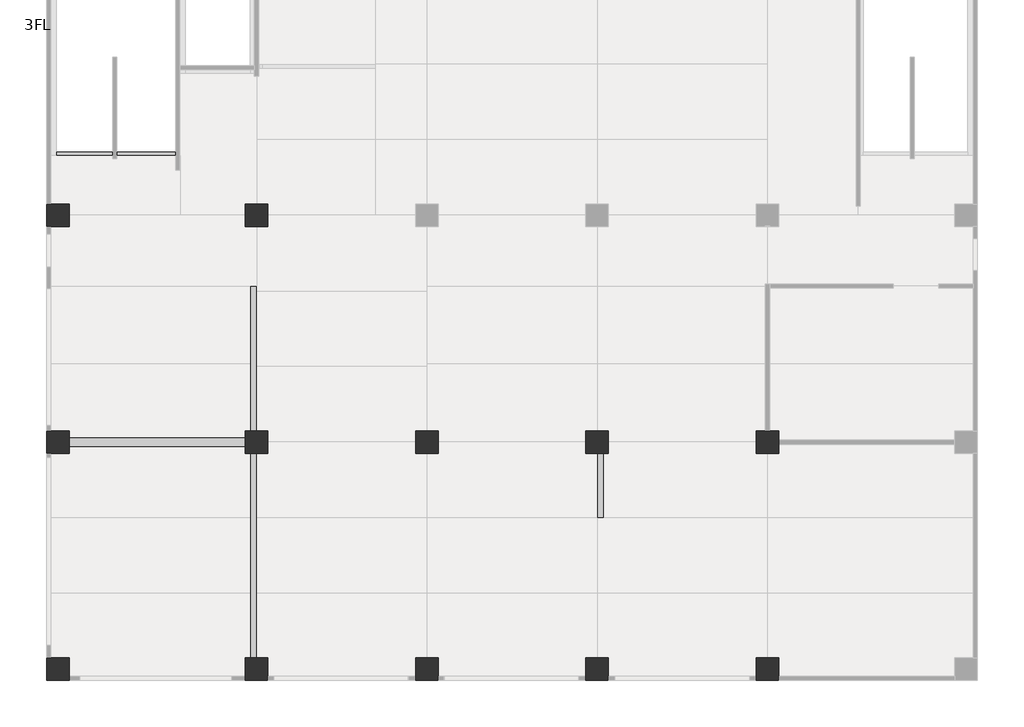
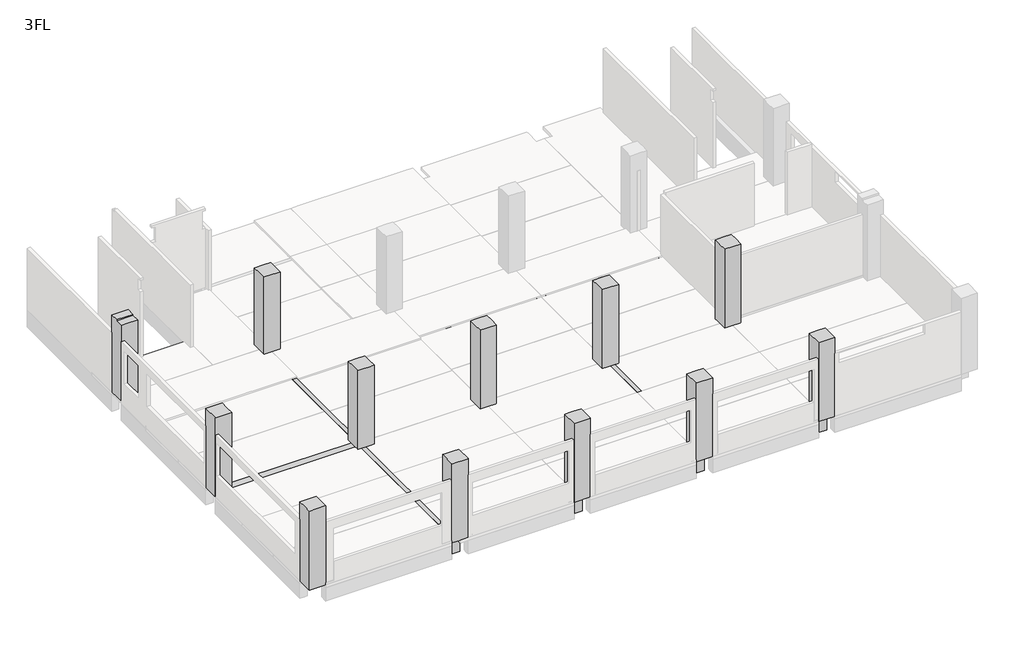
# One storey, part 3 of 4: 35 beams, 12 columns.
"""IFC4 building model written with IfcOpenShell, lengths in millimetres."""

from ifc_helpers import new_model, si_unit, frame, origin, place, context, project, spatial, polyline, outline, extrude, faceted_brep, element, save

model = new_model("IFC4")

# Units and contexts
model_context = context("Model", 3, world=origin())
ifc_project = project(units=[si_unit("LENGTHUNIT", "METRE", prefix="MILLI")], contexts=[model_context])

# Site, building, storey
site = spatial("IfcSite", under=ifc_project)
building = spatial("IfcBuilding", under=site)
storey = spatial("IfcBuildingStorey", under=building, Name="3FL", Elevation=8200.0)

# Beams
placement = place(None, origin())
element("IfcBeam", 1, ObjectType="RC_B : 3G12", at=placement, inside=storey, context=model_context, shape_type="Brep", body=[
    faceted_brep([(6775.0, 7600.0, 8100.0), (6775.0, 7600.0, 7950.0), (6775.0, 7600.0, 7200.0), (6775.0, 0.0, 7200.0), (6775.0, 0.0, 8100.0), (6775.0, 400.0, 8100.0), (6775.0, 2664.0, 8100.0), (6775.0, 5328.0, 8100.0), (7225.0, 7600.0, 7200.0), (7225.0, 0.0, 7200.0), (7225.0, 7600.0, 7950.0), (7225.0, 5505.0, 7950.0), (7225.0, 5155.0, 7950.0), (7225.0, 2835.0, 7950.0), (7225.0, 2485.0, 7950.0), (7225.0, 0.0, 7950.0), (7000.0, 0.0, 8100.0), (7000.0, 2667.0, 8100.0), (7000.0, 5333.0, 8100.0), (7000.0, 7600.0, 8100.0), (7000.0, 7600.0, 7950.0), (7000.0, 0.0, 7950.0), (7000.0, 5333.0, 7950.0), (7000.0, 2667.0, 7950.0)], [[[0, 1, 2, 3, 4, 5, 6, 7]], [[2, 8, 9, 3]], [[9, 8, 10, 11, 12, 13, 14, 15]], [[0, 7, 6, 5, 4, 16, 17, 18, 19]], [[8, 2, 1, 0, 19, 20, 10]], [[4, 3, 9, 15, 21, 16]], [[10, 20, 22, 23, 21, 15, 14, 13, 12, 11]], [[21, 23, 22, 20, 19, 18, 17, 16]]]),
])
element("IfcBeam", 2, ObjectType="RC_B : 3G12", at=placement, inside=storey, context=model_context, shape_type="Brep", body=[
    faceted_brep([(6775.0, 15600.0, 7200.0), (6775.0, 8000.0, 7200.0), (6775.0, 8000.0, 7250.0), (6775.0, 8175.0, 7250.0), (6775.0, 8175.0, 8100.0), (6775.0, 8400.0, 8100.0), (6775.0, 10748.0, 8100.0), (6775.0, 13496.0, 8100.0), (6775.0, 13496.0, 8040.0), (6775.0, 13675.0, 8040.0), (6775.0, 15600.0, 8040.0), (7225.0, 15600.0, 7200.0), (7225.0, 8000.0, 7200.0), (7225.0, 15600.0, 8040.0), (7225.0, 13328.0, 8040.0), (7225.0, 13328.0, 7950.0), (7225.0, 13325.0, 7950.0), (7225.0, 10925.0, 7950.0), (7225.0, 10575.0, 7950.0), (7225.0, 8000.0, 7950.0), (7000.0, 8175.0, 8100.0), (7000.0, 10664.0, 8100.0), (7000.0, 13328.0, 8100.0), (7000.0, 13496.0, 8100.0), (7000.0, 15600.0, 8040.0), (7000.0, 8000.0, 7950.0), (7000.0, 8000.0, 7250.0), (7000.0, 8175.0, 7250.0), (7000.0, 8175.0, 7950.0), (7000.0, 13496.0, 8040.0), (7000.0, 13328.0, 8040.0), (7000.0, 10664.0, 7950.0), (7000.0, 13328.0, 7950.0)], [[[0, 1, 2, 3, 4, 5, 6, 7, 8, 9, 10]], [[0, 11, 12, 1]], [[12, 11, 13, 14, 15, 16, 17, 18, 19]], [[4, 20, 21, 22, 23, 7, 6, 5]], [[11, 0, 10, 24, 13]], [[1, 12, 19, 25, 26, 2]], [[3, 27, 28, 20, 4]], [[27, 3, 2, 26]], [[27, 26, 25, 28]], [[8, 29, 30, 14, 13, 24, 10, 9]], [[29, 8, 7, 23]], [[30, 29, 23, 22, 21, 20, 28, 31, 32]], [[32, 31, 28, 25, 19, 18, 17, 16, 15]], [[30, 32, 15, 14]]]),
])
element("IfcBeam", 3, ObjectType="RC_B : 3G12", at=placement, inside=storey, context=model_context, shape_type="Brep", body=[
    faceted_brep([(12775.0, 7600.0, 7200.0), (12775.0, 0.0, 7200.0), (12775.0, 0.0, 7950.0), (12775.0, 2485.0, 7950.0), (12775.0, 2835.0, 7950.0), (12775.0, 5155.0, 7950.0), (12775.0, 5505.0, 7950.0), (12775.0, 7600.0, 7950.0), (13225.0, 7600.0, 7200.0), (13225.0, 0.0, 7200.0), (13225.0, 7600.0, 7950.0), (13225.0, 5505.0, 7950.0), (13225.0, 5155.0, 7950.0), (13225.0, 2835.0, 7950.0), (13225.0, 2485.0, 7950.0), (13225.0, 0.0, 7950.0), (13000.0, 7600.0, 7950.0)], [[[0, 1, 2, 3, 4, 5, 6, 7]], [[0, 8, 9, 1]], [[9, 8, 10, 11, 12, 13, 14, 15]], [[8, 0, 7, 16, 10]], [[1, 9, 15, 2]], [[2, 15, 14, 13, 12, 11, 10, 16, 7, 6, 5, 4, 3]]]),
])
element("IfcBeam", 4, ObjectType="RC_B : 3G12", at=placement, inside=storey, context=model_context, shape_type="Brep", body=[
    faceted_brep([(12775.0, 15600.0, 7200.0), (12775.0, 8000.0, 7200.0), (12775.0, 8000.0, 7250.0), (12775.0, 8175.0, 7250.0), (12775.0, 8175.0, 7950.0), (12775.0, 10575.0, 7950.0), (12775.0, 10925.0, 7950.0), (12775.0, 13325.0, 7950.0), (12775.0, 13328.0, 7950.0), (12775.0, 13328.0, 8040.0), (12775.0, 15600.0, 8040.0), (13225.0, 15600.0, 7200.0), (13225.0, 8000.0, 7200.0), (13225.0, 15600.0, 8040.0), (13225.0, 13496.0, 8040.0), (13225.0, 13496.0, 7950.0), (13225.0, 13325.0, 7950.0), (13225.0, 10925.0, 7950.0), (13225.0, 10575.0, 7950.0), (13225.0, 8175.0, 7950.0), (13225.0, 8000.0, 7950.0), (13000.0, 15600.0, 8040.0), (13000.0, 8000.0, 7950.0), (13000.0, 8000.0, 7250.0), (13000.0, 8175.0, 7250.0), (13000.0, 8175.0, 7950.0), (13000.0, 13328.0, 8040.0), (13000.0, 13496.0, 8040.0), (13000.0, 13496.0, 7950.0), (13000.0, 13328.0, 7950.0)], [[[0, 1, 2, 3, 4, 5, 6, 7, 8, 9, 10]], [[0, 11, 12, 1]], [[12, 11, 13, 14, 15, 16, 17, 18, 19, 20]], [[11, 0, 10, 21, 13]], [[1, 12, 20, 22, 23, 2]], [[3, 24, 25, 4]], [[24, 3, 2, 23]], [[24, 23, 22, 25]], [[10, 9, 26, 27, 14, 13, 21]], [[4, 25, 22, 20, 19, 18, 17, 16, 15, 28, 29, 8, 7, 6, 5]], [[8, 29, 26, 9]], [[28, 27, 26, 29]], [[27, 28, 15, 14]]]),
])
element("IfcBeam", 5, ObjectType="RC_B : 3G12", at=placement, inside=storey, context=model_context, shape_type="Brep", body=[
    faceted_brep([(18775.0, 7600.0, 7200.0), (18775.0, 0.0, 7200.0), (18775.0, 0.0, 7950.0), (18775.0, 2485.0, 7950.0), (18775.0, 2835.0, 7950.0), (18775.0, 5155.0, 7950.0), (18775.0, 5505.0, 7950.0), (18775.0, 7600.0, 7950.0), (19225.0, 7600.0, 7200.0), (19225.0, 0.0, 7200.0), (19225.0, 7600.0, 8100.0), (19225.0, 5328.0, 8100.0), (19225.0, 5328.0, 7950.0), (19225.0, 5155.0, 7950.0), (19225.0, 2835.0, 7950.0), (19225.0, 2485.0, 7950.0), (19225.0, 0.0, 7950.0), (19000.0, 7600.0, 8100.0), (19000.0, 5328.0, 8100.0), (19000.0, 7600.0, 7950.0), (19000.0, 5328.0, 7950.0)], [[[0, 1, 2, 3, 4, 5, 6, 7]], [[0, 8, 9, 1]], [[8, 10, 11, 12, 13, 14, 15, 16, 9]], [[10, 17, 18, 11]], [[8, 0, 7, 19, 17, 10]], [[1, 9, 16, 2]], [[19, 7, 6, 5, 4, 3, 2, 16, 15, 14, 13, 12, 20]], [[17, 19, 20, 18]], [[20, 12, 11, 18]]]),
])
element("IfcBeam", 6, ObjectType="RC_B : 3G12", at=placement, inside=storey, context=model_context, shape_type="Brep", body=[
    faceted_brep([(18775.0, 15600.0, 8100.0), (18775.0, 15600.0, 8040.0), (18775.0, 15600.0, 7200.0), (18775.0, 8000.0, 7200.0), (18775.0, 8000.0, 7250.0), (18775.0, 8175.0, 7250.0), (18775.0, 8175.0, 7950.0), (18775.0, 10575.0, 7950.0), (18775.0, 10925.0, 7950.0), (18775.0, 13325.0, 7950.0), (18775.0, 13496.0, 7950.0), (18775.0, 13496.0, 8100.0), (18775.0, 13675.0, 8100.0), (19225.0, 15600.0, 7200.0), (19225.0, 8000.0, 7200.0), (19225.0, 15600.0, 8040.0), (19225.0, 13496.0, 8040.0), (19225.0, 13496.0, 8100.0), (19225.0, 10748.0, 8100.0), (19225.0, 10748.0, 7950.0), (19225.0, 10575.0, 7950.0), (19225.0, 8175.0, 7950.0), (19225.0, 8000.0, 7950.0), (19000.0, 13496.0, 8100.0), (19000.0, 15600.0, 8100.0), (19000.0, 15600.0, 8040.0), (19000.0, 8000.0, 7950.0), (19000.0, 8000.0, 7250.0), (19000.0, 8175.0, 7250.0), (19000.0, 8175.0, 7950.0), (19000.0, 10748.0, 7950.0), (19000.0, 13496.0, 7950.0), (19000.0, 13496.0, 8040.0), (19000.0, 10748.0, 8100.0), (19000.0, 13675.0, 8040.0), (19000.0, 13496.0, 8040.0)], [[[0, 1, 2, 3, 4, 5, 6, 7, 8, 9, 10, 11, 12]], [[2, 13, 14, 3]], [[14, 13, 15, 16, 17, 18, 19, 20, 21, 22]], [[11, 23, 24, 0, 12]], [[13, 2, 1, 0, 24, 25, 15]], [[3, 14, 22, 26, 27, 4]], [[5, 28, 29, 6]], [[28, 5, 4, 27]], [[28, 27, 26, 29]], [[6, 29, 26, 22, 21, 20, 19, 30, 31, 10, 9, 8, 7]], [[10, 31, 32, 23, 11]], [[30, 19, 18, 33]], [[33, 23, 32, 31, 30]], [[25, 34, 35, 16, 15]], [[35, 23, 17, 16]], [[23, 35, 34, 25, 24]], [[23, 33, 18, 17]]]),
])
element("IfcBeam", 7, ObjectType="RC_B : 3G12", at=placement, inside=storey, context=model_context, shape_type="Brep", body=[
    faceted_brep([(24775.0, 7600.0, 7200.0), (24775.0, 0.0, 7200.0), (24775.0, 0.0, 7950.0), (24775.0, 2485.0, 7950.0), (24775.0, 2835.0, 7950.0), (24775.0, 5155.0, 7950.0), (24775.0, 5505.0, 7950.0), (24775.0, 7600.0, 7950.0), (25225.0, 7600.0, 7200.0), (25225.0, 0.0, 7200.0), (25225.0, 7600.0, 7950.0), (25225.0, 5505.0, 7950.0), (25225.0, 5155.0, 7950.0), (25225.0, 2835.0, 7950.0), (25225.0, 2485.0, 7950.0), (25225.0, 0.0, 7950.0)], [[[0, 1, 2, 3, 4, 5, 6, 7]], [[0, 8, 9, 1]], [[9, 8, 10, 11, 12, 13, 14, 15]], [[8, 0, 7, 10]], [[1, 9, 15, 2]], [[7, 6, 5, 4, 3, 2, 15, 14, 13, 12, 11, 10]]]),
])
element("IfcBeam", 8, ObjectType="RC_B : 3G12", at=placement, inside=storey, context=model_context, shape_type="Brep", body=[
    faceted_brep([(24775.0, 15600.0, 8100.0), (24775.0, 15600.0, 8040.0), (24775.0, 15600.0, 7200.0), (24775.0, 8000.0, 7200.0), (24775.0, 8000.0, 7250.0), (24775.0, 8175.0, 7250.0), (24775.0, 8175.0, 7950.0), (24775.0, 10575.0, 7950.0), (24775.0, 10925.0, 7950.0), (24775.0, 13325.0, 7950.0), (24775.0, 13496.0, 7950.0), (24775.0, 13496.0, 8100.0), (24775.0, 13675.0, 8100.0), (25225.0, 15600.0, 7200.0), (25225.0, 8075.0, 7200.0), (24925.0, 8075.0, 7200.0), (24925.0, 8000.0, 7200.0), (25225.0, 15600.0, 8040.0), (25225.0, 13675.0, 8040.0), (25225.0, 13325.0, 8040.0), (25225.0, 10925.0, 8040.0), (25225.0, 10575.0, 8040.0), (25225.0, 8175.0, 8040.0), (25225.0, 8000.0, 8040.0), (25225.0, 8000.0, 7950.0), (25225.0, 8000.0, 7250.0), (25225.0, 8075.0, 7250.0), (25000.0, 15600.0, 8100.0), (25000.0, 15600.0, 8040.0), (25000.0, 8000.0, 8040.0), (25000.0, 8000.0, 7250.0), (25000.0, 8175.0, 7250.0), (25000.0, 8175.0, 7950.0), (24925.0, 8000.0, 7250.0), (24925.0, 8075.0, 7250.0), (25000.0, 8075.0, 7250.0), (25000.0, 8400.0, 8040.0), (25000.0, 10748.0, 8040.0), (25000.0, 13496.0, 8040.0), (25000.0, 13496.0, 7950.0), (25000.0, 10748.0, 7950.0), (25000.0, 8400.0, 7950.0), (25000.0, 13496.0, 8100.0)], [[[0, 1, 2, 3, 4, 5, 6, 7, 8, 9, 10, 11, 12]], [[2, 13, 14, 15, 16, 3]], [[13, 17, 18, 19, 20, 21, 22, 23, 24, 25, 26, 14]], [[13, 2, 1, 0, 27, 28, 17]], [[29, 30, 25, 24, 23]], [[5, 31, 32, 6]], [[31, 5, 4, 33, 34, 35]], [[32, 31, 35, 30, 29, 36, 37, 38, 39, 40, 41]], [[28, 38, 37, 36, 29, 23, 22, 21, 20, 19, 18, 17]], [[38, 28, 27, 42]], [[6, 32, 41, 40, 39, 10, 9, 8, 7]], [[10, 39, 38, 42, 11]], [[26, 35, 34, 15, 14]], [[15, 34, 33, 16]], [[35, 26, 25, 30]], [[4, 3, 16, 33]], [[42, 27, 0, 12, 11]]]),
])
element("IfcBeam", 9, ObjectType="RC_B : 3G2", at=placement, inside=storey, context=model_context, shape_type="Brep", body=[
    faceted_brep([(0.0, 8175.0, 7250.0), (0.0, 8175.0, 8100.0), (400.0, 8175.0, 8100.0), (6600.0, 8175.0, 8100.0), (6600.0, 8175.0, 7950.0), (6600.0, 8175.0, 7250.0), (0.0, 7825.0, 7250.0), (6600.0, 7825.0, 7250.0), (0.0, 7825.0, 8100.0), (6600.0, 7825.0, 7950.0), (6600.0, 7825.0, 8100.0), (400.0, 7825.0, 8100.0)], [[[0, 1, 2, 3, 4, 5]], [[6, 0, 5, 7]], [[8, 6, 7, 9, 10, 11]], [[1, 8, 11, 10, 3, 2]], [[5, 4, 3, 10, 9, 7]], [[1, 0, 6, 8]]]),
])
element("IfcBeam", 10, ObjectType="RC_B : 3G2", at=placement, inside=storey, context=model_context, shape_type="Brep", body=[
    faceted_brep([(12600.0, 8175.0, 7250.0), (7225.0, 8175.0, 7250.0), (7225.0, 8175.0, 7950.0), (12600.0, 8175.0, 7950.0), (12600.0, 7825.0, 7250.0), (7225.0, 7825.0, 7250.0), (12600.0, 7825.0, 7950.0), (7225.0, 7825.0, 7950.0), (12600.0, 8000.0, 7950.0), (7225.0, 8000.0, 7950.0)], [[[0, 1, 2, 3]], [[0, 4, 5, 1]], [[5, 4, 6, 7]], [[4, 0, 3, 8, 6]], [[1, 5, 7, 9, 2]], [[7, 6, 8, 3, 2, 9]]]),
])
element("IfcBeam", 11, ObjectType="RC_B : 3G2", at=placement, inside=storey, context=model_context, shape_type="Brep", body=[
    faceted_brep([(18600.0, 8175.0, 7250.0), (13225.0, 8175.0, 7250.0), (13225.0, 8175.0, 7950.0), (18600.0, 8175.0, 7950.0), (18600.0, 7825.0, 7250.0), (13225.0, 7825.0, 7250.0), (18600.0, 7825.0, 7950.0), (13225.0, 7825.0, 7950.0), (18600.0, 8000.0, 7950.0), (13225.0, 8000.0, 7950.0)], [[[0, 1, 2, 3]], [[0, 4, 5, 1]], [[5, 4, 6, 7]], [[4, 0, 3, 8, 6]], [[1, 5, 7, 9, 2]], [[7, 6, 8, 3, 2, 9]]]),
])
element("IfcBeam", 12, ObjectType="RC_B : 3G2", at=placement, inside=storey, context=model_context, shape_type="Brep", body=[
    faceted_brep([(24600.0, 8175.0, 7250.0), (19225.0, 8175.0, 7250.0), (19225.0, 8175.0, 7950.0), (24600.0, 8175.0, 7950.0), (24600.0, 7825.0, 7250.0), (19225.0, 7825.0, 7250.0), (24600.0, 7825.0, 7950.0), (19225.0, 7825.0, 7950.0), (24600.0, 8000.0, 7950.0), (19225.0, 8000.0, 7950.0)], [[[0, 1, 2, 3]], [[0, 4, 5, 1]], [[5, 4, 6, 7]], [[4, 0, 3, 8, 6]], [[1, 5, 7, 9, 2]], [[7, 6, 8, 3, 2, 9]]]),
])
element("IfcBeam", 13, ObjectType="RC_B : 3G2", at=placement, inside=storey, context=model_context, shape_type="Brep", body=[
    faceted_brep([(31600.0, 8175.0, 7250.0), (25225.0, 8175.0, 7250.0), (25225.0, 8175.0, 8040.0), (31600.0, 8175.0, 8040.0), (31600.0, 7825.0, 7250.0), (25225.0, 7825.0, 7250.0), (25225.0, 8000.0, 7250.0), (25225.0, 8075.0, 7250.0), (31600.0, 7825.0, 7950.0), (25225.0, 7825.0, 7950.0), (31600.0, 8000.0, 8040.0), (31600.0, 8000.0, 7950.0), (25225.0, 8000.0, 7950.0), (25225.0, 8000.0, 8040.0), (25400.0, 8000.0, 7950.0), (25400.0, 8000.0, 8040.0)], [[[0, 1, 2, 3]], [[0, 4, 5, 6, 7, 1]], [[5, 4, 8, 9]], [[4, 0, 3, 10, 11, 8]], [[1, 7, 6, 5, 9, 12, 13, 2]], [[11, 14, 12, 9, 8]], [[12, 14, 11, 10, 15, 13]], [[3, 2, 13, 15, 10]]]),
])
element("IfcBeam", 14, ObjectType="RC_B : 3G2", at=placement, inside=storey, context=model_context, shape_type="Brep", body=[
    faceted_brep([(6600.0, 16175.0, 7250.0), (0.0, 16175.0, 7250.0), (0.0, 16175.0, 8040.0), (6600.0, 16175.0, 8040.0), (6600.0, 15825.0, 7250.0), (0.0, 15825.0, 7250.0), (6600.0, 15825.0, 8040.0), (0.0, 15825.0, 8040.0), (6600.0, 16000.0, 8040.0)], [[[0, 1, 2, 3]], [[0, 4, 5, 1]], [[5, 4, 6, 7]], [[4, 0, 3, 8, 6]], [[1, 5, 7, 2]], [[7, 6, 8, 3, 2]]]),
])
element("IfcBeam", 15, ObjectType="RC_B : B1", at=placement, inside=storey, context=model_context, shape_type="Brep", body=[
    faceted_brep([(6775.0, 2835.0, 7350.0), (-50.0, 2835.0, 7350.0), (-50.0, 2835.0, 7950.0), (6775.0, 2835.0, 7950.0), (6775.0, 2485.0, 7350.0), (-50.0, 2485.0, 7350.0), (6775.0, 2485.0, 7950.0), (-50.0, 2485.0, 7950.0), (6775.0, 2664.0, 7950.0)], [[[0, 1, 2, 3]], [[0, 4, 5, 1]], [[5, 4, 6, 7]], [[4, 0, 3, 8, 6]], [[1, 5, 7, 2]], [[3, 2, 7, 6, 8]]]),
])
element("IfcBeam", 16, ObjectType="RC_B : B1", at=placement, inside=storey, context=model_context, shape_type="Brep", body=[
    faceted_brep([(6775.0, 5505.0, 7350.0), (-50.0, 5505.0, 7350.0), (-50.0, 5505.0, 7950.0), (6775.0, 5505.0, 7950.0), (6775.0, 5155.0, 7350.0), (-50.0, 5155.0, 7350.0), (6775.0, 5155.0, 7950.0), (-50.0, 5155.0, 7950.0), (6775.0, 5328.0, 7950.0)], [[[0, 1, 2, 3]], [[0, 4, 5, 1]], [[5, 4, 6, 7]], [[4, 0, 3, 8, 6]], [[1, 5, 7, 2]], [[3, 2, 7, 6, 8]]]),
])
element("IfcBeam", 17, ObjectType="RC_B : B1", at=placement, inside=storey, context=model_context, shape_type="SweptSolid", body=[
    extrude(outline(polyline([(13675.0, 7350.0), (13325.0, 7350.0), (13325.0, 7950.0), (13496.0, 7950.0), (13496.0, 8040.0), (13675.0, 8040.0), (13675.0, 7350.0)])), frame((-50.0, 0.0, 0.0), z_axis=(1.0, 0.0, 0.0), x_axis=(0.0, 1.0, 0.0)), (0.0, 0.0, 1.0), 6825.0),
])
element("IfcBeam", 18, ObjectType="RC_B : B1", at=placement, inside=storey, context=model_context, shape_type="Brep", body=[
    faceted_brep([(6775.0, 10925.0, 7350.0), (-50.0, 10925.0, 7350.0), (-50.0, 10925.0, 7950.0), (6775.0, 10925.0, 7950.0), (6775.0, 10575.0, 7350.0), (-50.0, 10575.0, 7350.0), (6775.0, 10575.0, 7950.0), (-50.0, 10575.0, 7950.0), (6775.0, 10748.0, 7950.0)], [[[0, 1, 2, 3]], [[0, 4, 5, 1]], [[5, 4, 6, 7]], [[4, 0, 3, 8, 6]], [[1, 5, 7, 2]], [[3, 2, 7, 6, 8]]]),
])
element("IfcBeam", 19, ObjectType="RC_B : B2", at=placement, inside=storey, context=model_context, shape_type="SweptSolid", body=[
    extrude(outline(polyline([(7225.0, 2485.0), (7225.0, 2835.0), (12775.0, 2835.0), (12775.0, 2485.0), (7225.0, 2485.0)])), frame((0.0, 0.0, 7350.0), z_axis=(0.0, 0.0, 1.0), x_axis=(1.0, 0.0, 0.0)), (0.0, 0.0, 1.0), 600.0),
])
element("IfcBeam", 20, ObjectType="RC_B : B2", at=placement, inside=storey, context=model_context, shape_type="SweptSolid", body=[
    extrude(outline(polyline([(7225.0, 5155.0), (7225.0, 5505.0), (12775.0, 5505.0), (12775.0, 5155.0), (7225.0, 5155.0)])), frame((0.0, 0.0, 7350.0), z_axis=(0.0, 0.0, 1.0), x_axis=(1.0, 0.0, 0.0)), (0.0, 0.0, 1.0), 600.0),
])
element("IfcBeam", 21, ObjectType="RC_B : B2", at=placement, inside=storey, context=model_context, shape_type="SweptSolid", body=[
    extrude(outline(polyline([(13225.0, 2485.0), (13225.0, 2835.0), (18775.0, 2835.0), (18775.0, 2485.0), (13225.0, 2485.0)])), frame((0.0, 0.0, 7350.0), z_axis=(0.0, 0.0, 1.0), x_axis=(1.0, 0.0, 0.0)), (0.0, 0.0, 1.0), 600.0),
])
element("IfcBeam", 22, ObjectType="RC_B : B2", at=placement, inside=storey, context=model_context, shape_type="SweptSolid", body=[
    extrude(outline(polyline([(13225.0, 5155.0), (13225.0, 5505.0), (18775.0, 5505.0), (18775.0, 5155.0), (13225.0, 5155.0)])), frame((0.0, 0.0, 7350.0), z_axis=(0.0, 0.0, 1.0), x_axis=(1.0, 0.0, 0.0)), (0.0, 0.0, 1.0), 600.0),
])
element("IfcBeam", 23, ObjectType="RC_B : B2", at=placement, inside=storey, context=model_context, shape_type="SweptSolid", body=[
    extrude(outline(polyline([(19225.0, 2485.0), (19225.0, 2835.0), (24775.0, 2835.0), (24775.0, 2485.0), (19225.0, 2485.0)])), frame((0.0, 0.0, 7350.0), z_axis=(0.0, 0.0, 1.0), x_axis=(1.0, 0.0, 0.0)), (0.0, 0.0, 1.0), 600.0),
])
element("IfcBeam", 24, ObjectType="RC_B : B2", at=placement, inside=storey, context=model_context, shape_type="Brep", body=[
    faceted_brep([(24775.0, 5505.0, 7350.0), (19225.0, 5505.0, 7350.0), (19225.0, 5505.0, 7950.0), (24775.0, 5505.0, 7950.0), (19225.0, 5155.0, 7350.0), (24775.0, 5155.0, 7350.0), (24775.0, 5155.0, 7950.0), (19225.0, 5155.0, 7950.0), (19225.0, 5328.0, 7950.0)], [[[0, 1, 2, 3]], [[4, 1, 0, 5]], [[4, 5, 6, 7]], [[1, 4, 7, 8, 2]], [[5, 0, 3, 6]], [[7, 6, 3, 2, 8]]]),
])
element("IfcBeam", 25, ObjectType="RC_B : B2", at=placement, inside=storey, context=model_context, shape_type="SweptSolid", body=[
    extrude(outline(polyline([(25225.0, 2485.0), (25225.0, 2835.0), (32050.0, 2835.0), (32050.0, 2485.0), (25225.0, 2485.0)])), frame((0.0, 0.0, 7350.0), z_axis=(0.0, 0.0, 1.0), x_axis=(1.0, 0.0, 0.0)), (0.0, 0.0, 1.0), 600.0),
])
element("IfcBeam", 26, ObjectType="RC_B : B2", at=placement, inside=storey, context=model_context, shape_type="SweptSolid", body=[
    extrude(outline(polyline([(25225.0, 5155.0), (25225.0, 5505.0), (32050.0, 5505.0), (32050.0, 5155.0), (25225.0, 5155.0)])), frame((0.0, 0.0, 7350.0), z_axis=(0.0, 0.0, 1.0), x_axis=(1.0, 0.0, 0.0)), (0.0, 0.0, 1.0), 600.0),
])
element("IfcBeam", 27, ObjectType="RC_B : B2", at=placement, inside=storey, context=model_context, shape_type="SweptSolid", body=[
    extrude(outline(polyline([(7225.0, 10575.0), (7225.0, 10925.0), (12775.0, 10925.0), (12775.0, 10575.0), (7225.0, 10575.0)])), frame((0.0, 0.0, 7350.0), z_axis=(0.0, 0.0, 1.0), x_axis=(1.0, 0.0, 0.0)), (0.0, 0.0, 1.0), 600.0),
])
element("IfcBeam", 28, ObjectType="RC_B : B2", at=placement, inside=storey, context=model_context, shape_type="Brep", body=[
    faceted_brep([(7225.0, 13675.0, 7350.0), (7225.0, 13675.0, 8100.0), (12775.0, 13675.0, 8100.0), (12775.0, 13675.0, 7350.0), (7225.0, 13325.0, 7350.0), (12775.0, 13325.0, 7350.0), (12775.0, 13325.0, 7950.0), (7225.0, 13325.0, 7950.0), (7225.0, 13328.0, 8100.0), (12775.0, 13328.0, 8100.0), (7225.0, 13328.0, 7950.0), (7225.0, 13328.0, 8040.0), (12775.0, 13328.0, 8040.0), (12775.0, 13328.0, 7950.0)], [[[0, 1, 2, 3]], [[4, 0, 3, 5]], [[4, 5, 6, 7]], [[2, 1, 8, 9]], [[1, 0, 4, 7, 10, 11, 8]], [[3, 2, 9, 12, 13, 6, 5]], [[13, 10, 7, 6]], [[10, 13, 12, 9, 8, 11]]]),
])
element("IfcBeam", 29, ObjectType="RC_B : B2", at=placement, inside=storey, context=model_context, shape_type="Brep", body=[
    faceted_brep([(13225.0, 13675.0, 7350.0), (13225.0, 13675.0, 8100.0), (18775.0, 13675.0, 8100.0), (18775.0, 13675.0, 8040.0), (18775.0, 13675.0, 7350.0), (13225.0, 13325.0, 7350.0), (18775.0, 13325.0, 7350.0), (13225.0, 13325.0, 7950.0), (18775.0, 13325.0, 7950.0), (13225.0, 13496.0, 8100.0), (18775.0, 13496.0, 8100.0), (13225.0, 13496.0, 7950.0), (13225.0, 13496.0, 8040.0), (18775.0, 13496.0, 7950.0)], [[[0, 1, 2, 3, 4]], [[5, 0, 4, 6]], [[7, 5, 6, 8]], [[1, 9, 10, 2]], [[1, 0, 5, 7, 11, 12, 9]], [[11, 7, 8, 13]], [[9, 12, 11, 13, 10]], [[4, 3, 2, 10, 13, 8, 6]]]),
])
element("IfcBeam", 30, ObjectType="RC_B : B2", at=placement, inside=storey, context=model_context, shape_type="Brep", body=[
    faceted_brep([(24775.0, 13675.0, 8100.0), (24775.0, 13675.0, 8040.0), (24775.0, 13675.0, 7350.0), (19225.0, 13675.0, 7350.0), (19225.0, 13675.0, 8100.0), (24775.0, 13325.0, 7350.0), (19225.0, 13325.0, 7350.0), (24775.0, 13325.0, 7950.0), (19225.0, 13325.0, 7950.0), (24775.0, 13496.0, 8100.0), (19225.0, 13496.0, 8100.0), (24775.0, 13496.0, 7950.0), (19225.0, 13496.0, 7950.0)], [[[0, 1, 2, 3, 4]], [[2, 5, 6, 3]], [[5, 7, 8, 6]], [[9, 0, 4, 10]], [[2, 1, 0, 9, 11, 7, 5]], [[7, 11, 12, 8]], [[11, 9, 10, 12]], [[4, 3, 6, 8, 12, 10]]]),
])
element("IfcBeam", 31, ObjectType="RC_B : B2", at=placement, inside=storey, context=model_context, shape_type="Brep", body=[
    faceted_brep([(32050.0, 13675.0, 7350.0), (25225.0, 13675.0, 7350.0), (25225.0, 13675.0, 8040.0), (32050.0, 13675.0, 8040.0), (25225.0, 13325.0, 7350.0), (32050.0, 13575.0, 7350.0), (32050.0, 13425.0, 7350.0), (32050.0, 13325.0, 7350.0), (32050.0, 13325.0, 8040.0), (25225.0, 13325.0, 8040.0)], [[[0, 1, 2, 3]], [[4, 1, 0, 5, 6, 7]], [[4, 7, 8, 9]], [[1, 4, 9, 2]], [[7, 6, 5, 0, 3, 8]], [[3, 2, 9, 8]]]),
])
element("IfcBeam", 32, ObjectType="RC_B : B2", at=placement, inside=storey, context=model_context, shape_type="SweptSolid", body=[
    extrude(outline(polyline([(13225.0, 10575.0), (13225.0, 10925.0), (18775.0, 10925.0), (18775.0, 10575.0), (13225.0, 10575.0)])), frame((0.0, 0.0, 7350.0), z_axis=(0.0, 0.0, 1.0), x_axis=(1.0, 0.0, 0.0)), (0.0, 0.0, 1.0), 600.0),
])
element("IfcBeam", 33, ObjectType="RC_B : B2", at=placement, inside=storey, context=model_context, shape_type="Brep", body=[
    faceted_brep([(24775.0, 10925.0, 7350.0), (19225.0, 10925.0, 7350.0), (19225.0, 10925.0, 7950.0), (24775.0, 10925.0, 7950.0), (19225.0, 10575.0, 7350.0), (24775.0, 10575.0, 7350.0), (24775.0, 10575.0, 7950.0), (19225.0, 10575.0, 7950.0), (19225.0, 10748.0, 7950.0)], [[[0, 1, 2, 3]], [[4, 1, 0, 5]], [[4, 5, 6, 7]], [[1, 4, 7, 8, 2]], [[5, 0, 3, 6]], [[3, 2, 8, 7, 6]]]),
])
element("IfcBeam", 34, ObjectType="RC_B : B2", at=placement, inside=storey, context=model_context, shape_type="SweptSolid", body=[
    extrude(outline(polyline([(25225.0, 10575.0), (25225.0, 10925.0), (32050.0, 10925.0), (32050.0, 10575.0), (25225.0, 10575.0)])), frame((0.0, 0.0, 7350.0), z_axis=(0.0, 0.0, 1.0), x_axis=(1.0, 0.0, 0.0)), (0.0, 0.0, 1.0), 690.0),
])
element("IfcBeam", 35, ObjectType="RC_B : B3", at=placement, inside=storey, context=model_context, shape_type="Brep", body=[
    faceted_brep([(4144.0, 18225.0, 8100.0), (4144.0, 18225.0, 7500.0), (2075.0, 18225.0, 7500.0), (1925.0, 18225.0, 7500.0), (-50.0, 18225.0, 7500.0), (-50.0, 18225.0, 8100.0), (1925.0, 18225.0, 8100.0), (2075.0, 18225.0, 8100.0), (4144.0, 17975.0, 7500.0), (-50.0, 17975.0, 7500.0), (4144.0, 17975.0, 8040.0), (-50.0, 17975.0, 8040.0), (-50.0, 18100.0, 8100.0), (4144.0, 18100.0, 8100.0), (4144.0, 18100.0, 8040.0), (-50.0, 18100.0, 8040.0)], [[[0, 1, 2, 3, 4, 5, 6, 7]], [[1, 8, 9, 4, 3, 2]], [[9, 8, 10, 11]], [[0, 7, 6, 5, 12, 13]], [[1, 0, 13, 14, 10, 8]], [[5, 4, 9, 11, 15, 12]], [[14, 15, 11, 10]], [[15, 14, 13, 12]]]),
])

# Columns
element("IfcColumn", 36, ObjectType="RC_C_B : 3C1", at=placement, inside=storey, context=model_context, shape_type="Brep", body=[
    faceted_brep([(7400.0, 400.0, 8100.0), (7400.0, -250.0, 8100.0), (7400.0, -400.0, 8100.0), (7000.0, -400.0, 8100.0), (6600.0, -400.0, 8100.0), (6600.0, -250.0, 8100.0), (6600.0, 400.0, 8100.0), (7000.0, 400.0, 8100.0), (7400.0, 400.0, 12200.0), (7400.0, -400.0, 12200.0), (7400.0, -400.0, 12050.0), (7400.0, -400.0, 11350.0), (7400.0, 400.0, 12050.0), (7375.0, -400.0, 12200.0), (6625.0, -400.0, 12200.0), (6600.0, -400.0, 12200.0), (6600.0, -400.0, 12050.0), (6600.0, -400.0, 11350.0), (6600.0, -400.0, 8200.0), (6600.0, 400.0, 12200.0), (6600.0, 400.0, 12050.0), (6775.0, 400.0, 12200.0), (7225.0, 400.0, 12200.0)], [[[0, 1, 2, 3, 4, 5, 6, 7]], [[8, 9, 10, 11, 2, 1, 0, 12]], [[9, 13, 14, 15, 16, 17, 18, 4, 3, 2, 11, 10]], [[15, 19, 20, 6, 5, 4, 18, 17, 16]], [[19, 21, 22, 8, 12, 0, 7, 6, 20]], [[8, 22, 21, 19, 15, 14, 13, 9]]]),
])
element("IfcColumn", 37, ObjectType="RC_C_B : 3C1", at=placement, inside=storey, context=model_context, shape_type="Brep", body=[
    faceted_brep([(13400.0, 400.0, 8100.0), (13400.0, -250.0, 8100.0), (13400.0, -400.0, 8100.0), (12600.0, -400.0, 8100.0), (12600.0, 400.0, 8100.0), (13400.0, 400.0, 12200.0), (13400.0, -400.0, 12200.0), (13400.0, -400.0, 12050.0), (13400.0, -400.0, 11350.0), (13400.0, 400.0, 12050.0), (13375.0, -400.0, 12200.0), (12625.0, -400.0, 12200.0), (12600.0, -400.0, 12200.0), (12600.0, -400.0, 12050.0), (12600.0, -400.0, 11350.0), (12600.0, 400.0, 12200.0), (12600.0, 400.0, 12050.0), (12775.0, 400.0, 12200.0), (13000.0, 400.0, 12200.0)], [[[0, 1, 2, 3, 4]], [[5, 6, 7, 8, 2, 1, 0, 9]], [[6, 10, 11, 12, 13, 14, 3, 2, 8, 7]], [[12, 15, 16, 4, 3, 14, 13]], [[15, 17, 18, 5, 9, 0, 4, 16]], [[5, 18, 17, 15, 12, 11, 10, 6]]]),
])
element("IfcColumn", 38, ObjectType="RC_C_B : 3C1", at=placement, inside=storey, context=model_context, shape_type="Brep", body=[
    faceted_brep([(19400.0, 400.0, 8100.0), (19400.0, -250.0, 8100.0), (19400.0, -400.0, 8100.0), (18600.0, -400.0, 8100.0), (18600.0, -250.0, 8100.0), (18600.0, 400.0, 8100.0), (19400.0, 400.0, 12200.0), (19400.0, -400.0, 12200.0), (19400.0, -400.0, 12050.0), (19400.0, -400.0, 11350.0), (19400.0, 400.0, 12050.0), (19375.0, -400.0, 12200.0), (18625.0, -400.0, 12200.0), (18600.0, -400.0, 12200.0), (18600.0, -400.0, 12050.0), (18600.0, -400.0, 11350.0), (18600.0, -400.0, 8200.0), (18600.0, 400.0, 12200.0), (18600.0, 400.0, 12050.0), (19000.0, 400.0, 12200.0)], [[[0, 1, 2, 3, 4, 5]], [[6, 7, 8, 9, 2, 1, 0, 10]], [[7, 11, 12, 13, 14, 15, 16, 3, 2, 9, 8]], [[13, 17, 18, 5, 4, 3, 16, 15, 14]], [[17, 19, 6, 10, 0, 5, 18]], [[6, 19, 17, 13, 12, 11, 7]]]),
])
element("IfcColumn", 39, ObjectType="RC_C_B : 3C1", at=placement, inside=storey, context=model_context, shape_type="Brep", body=[
    faceted_brep([(25400.0, 400.0, 8100.0), (25400.0, -250.0, 8100.0), (25400.0, -400.0, 8100.0), (24600.0, -400.0, 8100.0), (24600.0, -250.0, 8100.0), (24600.0, 400.0, 8100.0), (25400.0, 400.0, 12200.0), (25400.0, -400.0, 12200.0), (25400.0, -400.0, 12050.0), (25400.0, -400.0, 11350.0), (25400.0, 400.0, 12050.0), (25375.0, -400.0, 12200.0), (24625.0, -400.0, 12200.0), (24600.0, -400.0, 12200.0), (24600.0, -400.0, 12050.0), (24600.0, -400.0, 11350.0), (24600.0, -400.0, 8200.0), (24600.0, 400.0, 12200.0), (24600.0, 400.0, 12050.0), (25000.0, 400.0, 12200.0)], [[[0, 1, 2, 3, 4, 5]], [[6, 7, 8, 9, 2, 1, 0, 10]], [[7, 11, 12, 13, 14, 15, 16, 3, 2, 9, 8]], [[13, 17, 18, 5, 4, 3, 16, 15, 14]], [[17, 19, 6, 10, 0, 5, 18]], [[6, 19, 17, 13, 12, 11, 7]]]),
])
element("IfcColumn", 40, ObjectType="RC_C_B : 3C1", at=placement, inside=storey, context=model_context, shape_type="Brep", body=[
    faceted_brep([(400.0, 8400.0, 8100.0), (400.0, 7600.0, 8100.0), (-250.0, 7600.0, 8100.0), (-400.0, 7600.0, 8100.0), (-400.0, 8400.0, 8100.0), (-250.0, 8400.0, 8100.0), (400.0, 8400.0, 12200.0), (400.0, 8000.0, 12200.0), (400.0, 7600.0, 12200.0), (400.0, 7600.0, 12050.0), (400.0, 8400.0, 12050.0), (-400.0, 7600.0, 12200.0), (-400.0, 7600.0, 12050.0), (-400.0, 7600.0, 11300.0), (-400.0, 7625.0, 12200.0), (-400.0, 8375.0, 12200.0), (-400.0, 8400.0, 12200.0), (-400.0, 8400.0, 12050.0), (-400.0, 8400.0, 11300.0)], [[[0, 1, 2, 3, 4, 5]], [[6, 7, 8, 9, 1, 0, 10]], [[8, 11, 12, 13, 3, 2, 1, 9]], [[11, 14, 15, 16, 17, 18, 4, 3, 13, 12]], [[16, 6, 10, 0, 5, 4, 18, 17]], [[6, 16, 15, 14, 11, 8, 7]]]),
])
element("IfcColumn", 41, ObjectType="RC_C_B : 3C1", at=placement, inside=storey, context=model_context, shape_type="Brep", body=[
    faceted_brep([(7400.0, 8400.0, 8100.0), (7400.0, 7600.0, 8100.0), (7000.0, 7600.0, 8100.0), (6600.0, 7600.0, 8100.0), (6600.0, 8400.0, 8100.0), (7000.0, 8400.0, 8100.0), (7400.0, 8400.0, 12200.0), (7400.0, 8000.0, 12200.0), (7400.0, 7600.0, 12200.0), (7400.0, 7600.0, 12050.0), (7400.0, 8400.0, 12050.0), (7225.0, 7600.0, 12200.0), (6775.0, 7600.0, 12200.0), (6600.0, 7600.0, 12200.0), (6600.0, 7600.0, 12050.0), (6600.0, 8000.0, 12200.0), (6600.0, 8400.0, 12200.0), (6600.0, 8400.0, 12050.0), (7000.0, 8400.0, 12200.0)], [[[0, 1, 2, 3, 4, 5]], [[6, 7, 8, 9, 1, 0, 10]], [[8, 11, 12, 13, 14, 3, 2, 1, 9]], [[13, 15, 16, 17, 4, 3, 14]], [[16, 18, 6, 10, 0, 5, 4, 17]], [[6, 18, 16, 15, 13, 12, 11, 8, 7]]]),
])
element("IfcColumn", 42, ObjectType="RC_C_B : 3C1", at=placement, inside=storey, context=model_context, shape_type="Brep", body=[
    faceted_brep([(13400.0, 8400.0, 8100.0), (13400.0, 7600.0, 8100.0), (12600.0, 7600.0, 8100.0), (12600.0, 8400.0, 8100.0), (13400.0, 8400.0, 12200.0), (13400.0, 8000.0, 12200.0), (13400.0, 7600.0, 12200.0), (13400.0, 7600.0, 12050.0), (13400.0, 8400.0, 12050.0), (13000.0, 7600.0, 12200.0), (12775.0, 7600.0, 12200.0), (12600.0, 7600.0, 12200.0), (12600.0, 7600.0, 12050.0), (12600.0, 8000.0, 12200.0), (12600.0, 8400.0, 12200.0), (12600.0, 8400.0, 12050.0), (12775.0, 8400.0, 12200.0), (13000.0, 8400.0, 12200.0)], [[[0, 1, 2, 3]], [[4, 5, 6, 7, 1, 0, 8]], [[6, 9, 10, 11, 12, 2, 1, 7]], [[11, 13, 14, 15, 3, 2, 12]], [[14, 16, 17, 4, 8, 0, 3, 15]], [[4, 17, 16, 14, 13, 11, 10, 9, 6, 5]]]),
])
element("IfcColumn", 43, ObjectType="RC_C_B : 3C1", at=placement, inside=storey, context=model_context, shape_type="Brep", body=[
    faceted_brep([(19400.0, 8400.0, 8100.0), (19400.0, 7600.0, 8100.0), (18600.0, 7600.0, 8100.0), (18600.0, 8400.0, 8100.0), (19400.0, 8400.0, 12200.0), (19400.0, 8000.0, 12200.0), (19400.0, 7600.0, 12200.0), (19400.0, 7600.0, 12050.0), (19400.0, 8400.0, 12050.0), (19000.0, 7600.0, 12200.0), (18600.0, 7600.0, 12200.0), (18600.0, 7600.0, 12050.0), (18600.0, 8000.0, 12200.0), (18600.0, 8400.0, 12200.0), (18600.0, 8400.0, 12050.0), (19000.0, 8400.0, 12200.0), (19225.0, 8400.0, 12200.0)], [[[0, 1, 2, 3]], [[4, 5, 6, 7, 1, 0, 8]], [[6, 9, 10, 11, 2, 1, 7]], [[10, 12, 13, 14, 3, 2, 11]], [[13, 15, 16, 4, 8, 0, 3, 14]], [[4, 16, 15, 13, 12, 10, 9, 6, 5]]]),
])
element("IfcColumn", 44, ObjectType="RC_C_B : 3C1", at=placement, inside=storey, context=model_context, shape_type="Brep", body=[
    faceted_brep([(25400.0, 8400.0, 8100.0), (25400.0, 8075.0, 8100.0), (25400.0, 7925.0, 8100.0), (25400.0, 7600.0, 8100.0), (24600.0, 7600.0, 8100.0), (24600.0, 8400.0, 8100.0), (25400.0, 8400.0, 12200.0), (25400.0, 8000.0, 12200.0), (25400.0, 7600.0, 12200.0), (25400.0, 7600.0, 12050.0), (25400.0, 8400.0, 8190.0), (25400.0, 8400.0, 12140.0), (25000.0, 7600.0, 12200.0), (24600.0, 7600.0, 12200.0), (24600.0, 7600.0, 12050.0), (24600.0, 8000.0, 12200.0), (24600.0, 8400.0, 12200.0), (24600.0, 8400.0, 12050.0), (25000.0, 8400.0, 12200.0)], [[[0, 1, 2, 3, 4, 5]], [[6, 7, 8, 9, 3, 2, 1, 0, 10, 11]], [[8, 12, 13, 14, 4, 3, 9]], [[13, 15, 16, 17, 5, 4, 14]], [[16, 18, 6, 11, 10, 0, 5, 17]], [[6, 18, 16, 15, 13, 12, 8, 7]]]),
])
element("IfcColumn", 45, ObjectType="RC_C_B : 3C1", at=placement, inside=storey, context=model_context, shape_type="Brep", body=[
    faceted_brep([(400.0, 16400.0, 12200.0), (400.0, 16000.0, 12200.0), (400.0, 16000.0, 12140.0), (400.0, 15600.0, 12140.0), (400.0, 15600.0, 8190.0), (400.0, 16400.0, 8190.0), (400.0, 16400.0, 12140.0), (-50.0, 15600.0, 12140.0), (-400.0, 15600.0, 12140.0), (-400.0, 15600.0, 11300.0), (-400.0, 15600.0, 8190.0), (-400.0, 16000.0, 12200.0), (-400.0, 16400.0, 12200.0), (-400.0, 16400.0, 12140.0), (-400.0, 16400.0, 11300.0), (-400.0, 16400.0, 8190.0), (-400.0, 16000.0, 8190.0), (-400.0, 16000.0, 12140.0), (-250.0, 16400.0, 8190.0)], [[[0, 1, 2, 3, 4, 5, 6]], [[3, 7, 8, 9, 10, 4]], [[11, 12, 13, 14, 15, 16, 10, 9, 8, 17]], [[12, 0, 6, 5, 18, 15, 14, 13]], [[0, 12, 11, 1]], [[2, 17, 8, 7, 3]], [[17, 2, 1, 11]], [[4, 10, 16, 15, 18, 5]]]),
])
element("IfcColumn", 46, ObjectType="RC_C_B : 3C1", at=placement, inside=storey, context=model_context, shape_type="Brep", body=[
    faceted_brep([(7400.0, 16400.0, 8100.0), (7400.0, 15600.0, 8100.0), (6600.0, 15600.0, 8100.0), (6600.0, 16400.0, 8100.0), (7400.0, 16400.0, 12200.0), (7400.0, 16000.0, 12200.0), (7400.0, 15600.0, 12200.0), (7400.0, 15600.0, 12140.0), (7400.0, 15600.0, 8190.0), (7400.0, 16400.0, 12140.0), (7225.0, 15600.0, 12200.0), (7000.0, 15600.0, 12200.0), (6600.0, 15600.0, 12200.0), (6600.0, 15600.0, 12140.0), (6600.0, 15600.0, 8190.0), (6600.0, 16000.0, 12200.0), (6600.0, 16400.0, 12200.0), (6600.0, 16400.0, 12140.0), (6600.0, 16400.0, 8190.0), (7000.0, 16400.0, 12200.0)], [[[0, 1, 2, 3]], [[4, 5, 6, 7, 8, 1, 0, 9]], [[6, 10, 11, 12, 13, 14, 2, 1, 8, 7]], [[12, 15, 16, 17, 18, 3, 2, 14, 13]], [[16, 19, 4, 9, 0, 3, 18, 17]], [[4, 19, 16, 15, 12, 11, 10, 6, 5]]]),
])
element("IfcColumn", 47, ObjectType="RC_C_B : 3C2", at=placement, inside=storey, context=model_context, shape_type="Brep", body=[
    faceted_brep([(400.0, 400.0, 8100.0), (400.0, -250.0, 8100.0), (400.0, -400.0, 8100.0), (-400.0, -400.0, 8100.0), (-400.0, 400.0, 8100.0), (-250.0, 400.0, 8100.0), (400.0, 400.0, 12200.0), (400.0, -400.0, 12200.0), (400.0, -400.0, 12050.0), (400.0, -400.0, 11350.0), (400.0, -400.0, 8200.0), (400.0, 400.0, 12050.0), (350.0, -400.0, 12200.0), (-400.0, -400.0, 12200.0), (-400.0, 0.0, 12200.0), (-400.0, 400.0, 12200.0), (-400.0, 400.0, 12050.0), (-400.0, 400.0, 11300.0)], [[[0, 1, 2, 3, 4, 5]], [[6, 7, 8, 9, 10, 2, 1, 0, 11]], [[7, 12, 13, 3, 2, 10, 9, 8]], [[13, 14, 15, 16, 17, 4, 3]], [[15, 6, 11, 0, 5, 4, 17, 16]], [[6, 15, 14, 13, 12, 7]]]),
])

save(model, "model.ifc")
